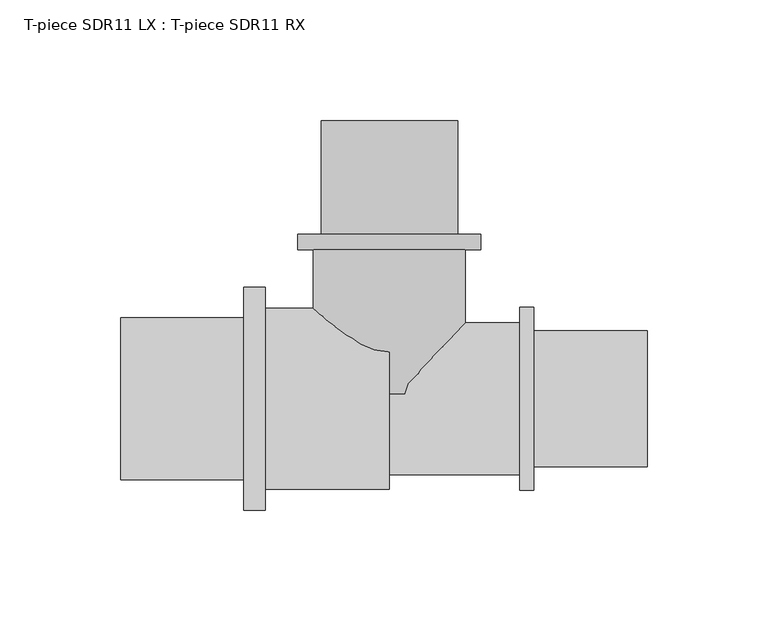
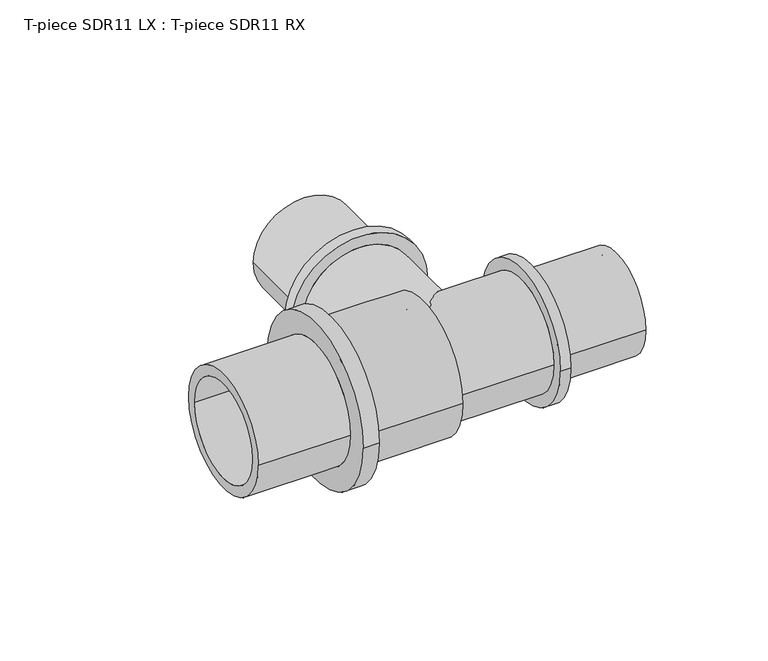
"""IFC4 building model written with IfcOpenShell, lengths in millimetres: pipe fitting geometry, T-piece SDR11 LX : T-piece SDR11 RX."""

from ifc_helpers import new_model, si_unit, point, frame, origin, place, context, project, spatial, polyline, circle_curve, ellipse_curve, trimmed, source, transform, mapped, element, save
from ifc_brep_helpers import plane_surface, cylinder_surface, revolved_surface, advanced_brep


def t_piece_sdr11_lx_t_piece_sdr11_rx_e4a54ba6(model_context):
    return source(origin(), model_context, "Body", "AdvancedBrep", [
        advanced_brep(
        [(31.5, 2.0801053, 0.0), (-31.5, 2.0801053, 0.0), (-31.5, 61.9, 0.0), (31.5, 61.9, 0.0), (23.1, 115.4, 0.0), (-23.1, 115.4, 0.0), (-23.1, 0.0, 0.0), (23.1, 0.0, 0.0), (28.3, 68.2, 0.0), (-28.3, 68.2, 0.0), (-28.3, 115.4, 0.0), (28.3, 115.4, 0.0), (38.0, 61.9, 0.0), (-38.0, 61.9, 0.0), (-38.0, 68.2, 0.0), (38.0, 68.2, 0.0)],
        [
            (0, 1, circle_curve(frame((0.0, 2.0801053, 0.0), z_axis=(0.0, 1.0, 0.0), x_axis=(-1.0, 0.0, 0.0)), 31.5)),
            (1, 2),
            (2, 3, circle_curve(frame((0.0, 61.9, 0.0), z_axis=(0.0, -1.0, 0.0), x_axis=(-1.0, 0.0, 0.0)), 31.5)),
            (3, 0),
            (4, 5, circle_curve(frame((0.0, 115.4, 0.0), z_axis=(0.0, 1.0, 0.0), x_axis=(-1.0, 0.0, 0.0)), 23.1)),
            (5, 6),
            (6, 7, circle_curve(frame((0.0, 0.0, 0.0), z_axis=(0.0, -1.0, 0.0), x_axis=(-1.0, 0.0, 0.0)), 23.1)),
            (7, 4),
            (8, 9, circle_curve(frame((0.0, 68.2, 0.0), z_axis=(0.0, 1.0, 0.0), x_axis=(-1.0, 0.0, 0.0)), 28.3)),
            (9, 10),
            (10, 11, circle_curve(frame((0.0, 115.4, 0.0), z_axis=(0.0, -1.0, 0.0), x_axis=(-1.0, 0.0, 0.0)), 28.3)),
            (11, 8),
            (12, 13, circle_curve(frame((0.0, 61.9, 0.0), z_axis=(0.0, 1.0, 0.0), x_axis=(-1.0, 0.0, 0.0)), 38.0)),
            (13, 14),
            (14, 15, circle_curve(frame((0.0, 68.2, 0.0), z_axis=(0.0, -1.0, 0.0), x_axis=(-1.0, 0.0, 0.0)), 38.0)),
            (15, 12),
            (12, 13, circle_curve(frame((0.0, 61.9, 0.0), z_axis=(0.0, -1.0, 0.0), x_axis=(1.0, 0.0, 0.0)), 38.0)),
            (2, 3, circle_curve(frame((0.0, 61.9, 0.0), z_axis=(0.0, 1.0, 0.0), x_axis=(1.0, 0.0, 0.0)), 31.5)),
            (1, 0, circle_curve(frame((0.0, 2.0801053, 0.0), z_axis=(0.0, 1.0, 0.0), x_axis=(1.0, 0.0, 0.0)), 31.5)),
            (5, 4, circle_curve(frame((0.0, 115.4, 0.0), z_axis=(0.0, 1.0, 0.0), x_axis=(1.0, 0.0, 0.0)), 23.1)),
            (7, 6, circle_curve(frame((0.0, 0.0, 0.0), z_axis=(0.0, -1.0, 0.0), x_axis=(1.0, 0.0, 0.0)), 23.1)),
            (10, 11, circle_curve(frame((0.0, 115.4, 0.0), z_axis=(0.0, 1.0, 0.0), x_axis=(1.0, 0.0, 0.0)), 28.3)),
            (9, 8, circle_curve(frame((0.0, 68.2, 0.0), z_axis=(0.0, 1.0, 0.0), x_axis=(1.0, 0.0, 0.0)), 28.3)),
            (14, 15, circle_curve(frame((0.0, 68.2, 0.0), z_axis=(0.0, 1.0, 0.0), x_axis=(1.0, 0.0, 0.0)), 38.0)),
            (6, 1, circle_curve(frame((-18.3462802, 37.197475, 0.0), z_axis=(0.0, 0.0, -1.0), x_axis=(0.0, -1.0, 0.0)), 37.5)),
            (0, 7, circle_curve(frame((18.3462802, 37.197475, 0.0), z_axis=(0.0, 0.0, -1.0), x_axis=(0.0, -1.0, 0.0)), 37.5)),
        ],
        [
            cylinder_surface(frame((0.0, 0.0, 0.0), z_axis=(0.0, -1.0, 0.0), x_axis=(-1.0, 0.0, 0.0)), 31.5),
            revolved_surface(polyline([(-23.1, 0.0, 0.0), (-23.1, 115.4, 0.0)]), (0.0, 0.0, 0.0), (0.0, -1.0, 0.0)),
            cylinder_surface(frame((0.0, 0.0, 0.0), z_axis=(0.0, -1.0, 0.0), x_axis=(-1.0, 0.0, 0.0)), 28.3),
            cylinder_surface(frame((0.0, 0.0, 0.0), z_axis=(0.0, -1.0, 0.0), x_axis=(-1.0, 0.0, 0.0)), 38.0),
            plane_surface(frame((0.0, 61.9, 0.0), z_axis=(0.0, -1.0, 0.0), x_axis=(1.0, 0.0, 0.0))),
            cylinder_surface(frame((0.0, 0.0, 0.0), z_axis=(0.0, -1.0, 0.0), x_axis=(1.0, 0.0, 0.0)), 31.5),
            revolved_surface(polyline([(23.1, 0.0, 0.0), (23.1, 115.4, 0.0)]), (0.0, 0.0, 0.0), (0.0, -1.0, 0.0)),
            plane_surface(frame((0.0, 115.4, 0.0), z_axis=(0.0, 1.0, 0.0), x_axis=(1.0, 0.0, 0.0))),
            cylinder_surface(frame((0.0, 0.0, 0.0), z_axis=(0.0, -1.0, 0.0), x_axis=(1.0, 0.0, 0.0)), 28.3),
            plane_surface(frame((0.0, 68.2, 0.0), z_axis=(0.0, 1.0, 0.0), x_axis=(1.0, 0.0, 0.0))),
            cylinder_surface(frame((0.0, 0.0, 0.0), z_axis=(0.0, -1.0, 0.0), x_axis=(1.0, 0.0, 0.0)), 38.0),
            revolved_surface(trimmed(ellipse_curve(frame((-18.3462802, 37.197475, 0.0), z_axis=(0.0, 0.0, 1.0), x_axis=(0.0, -1.0, 0.0)), 37.5, 37.5), [point((-31.5, 2.0801053, 0.0))], [point((-23.1, 0.0, 0.0))], True, "CARTESIAN"), (0.0, 0.0, 0.0), (0.0, -1.0, 0.0)),
            revolved_surface(trimmed(ellipse_curve(frame((18.3462802, 37.197475, 0.0), z_axis=(0.0, 0.0, -1.0), x_axis=(0.0, -1.0, 0.0)), 37.5, 37.5), [point((31.5, 2.0801053, 0.0))], [point((23.1, 0.0, 0.0))], True, "CARTESIAN"), (0.0, 0.0, 0.0), (0.0, -1.0, 0.0)),
        ],
        [
            (0, [[1, 2, 3, 4]]),
            (1, [[5, 6, 7, 8]]),
            (2, [[9, 10, 11, 12]]),
            (3, [[13, 14, 15, 16]]),
            (4, [[17, -13], [18, -3]]),
            (5, [[19, -4, -18, -2]]),
            (6, [[20, -8, 21, -6]]),
            (7, [[22, -11], [-20, -5]]),
            (8, [[23, -12, -22, -10]]),
            (9, [[24, -15], [-23, -9]]),
            (10, [[-17, -16, -24, -14]]),
            (11, [[-7, 25, -1, 26]]),
            (12, [[-21, -26, -19, -25]]),
        ],
    ),
        advanced_brep(
        [(54.1, 31.5, 0.0), (54.1, -31.5, 0.0), (0.0, -31.5, 0.0), (0.0, 31.5, 0.0), (0.0, 23.1, 0.0), (0.0, -23.1, 0.0), (107.1, -23.1, 0.0), (107.1, 23.1, 0.0), (107.1, 28.3, 0.0), (107.1, -28.3, 0.0), (59.9, -28.3, 0.0), (59.9, 28.3, 0.0), (59.9, 38.0, 0.0), (59.9, -38.0, 0.0), (54.1, -38.0, 0.0), (54.1, 38.0, 0.0)],
        [
            (0, 1, circle_curve(frame((54.1, 0.0, 0.0), z_axis=(-1.0, 0.0, 0.0), x_axis=(0.0, -1.0, 0.0)), 31.5)),
            (1, 2),
            (2, 3, circle_curve(frame((0.0, 0.0, 0.0), z_axis=(1.0, 0.0, 0.0), x_axis=(0.0, -1.0, 0.0)), 31.5)),
            (3, 0),
            (4, 5, circle_curve(frame((0.0, 0.0, 0.0), z_axis=(-1.0, 0.0, 0.0), x_axis=(0.0, -1.0, 0.0)), 23.1)),
            (5, 6),
            (6, 7, circle_curve(frame((107.1, 0.0, 0.0), z_axis=(1.0, 0.0, 0.0), x_axis=(0.0, -1.0, 0.0)), 23.1)),
            (7, 4),
            (8, 9, circle_curve(frame((107.1, 0.0, 0.0), z_axis=(-1.0, 0.0, 0.0), x_axis=(0.0, -1.0, 0.0)), 28.3)),
            (9, 10),
            (10, 11, circle_curve(frame((59.9, 0.0, 0.0), z_axis=(1.0, 0.0, 0.0), x_axis=(0.0, -1.0, 0.0)), 28.3)),
            (11, 8),
            (12, 13, circle_curve(frame((59.9, 0.0, 0.0), z_axis=(-1.0, 0.0, 0.0), x_axis=(0.0, -1.0, 0.0)), 38.0)),
            (13, 14),
            (14, 15, circle_curve(frame((54.1, 0.0, 0.0), z_axis=(1.0, 0.0, 0.0), x_axis=(0.0, -1.0, 0.0)), 38.0)),
            (15, 12),
            (14, 15, circle_curve(frame((54.1, 0.0, 0.0), z_axis=(-1.0, 0.0, 0.0), x_axis=(0.0, 1.0, 0.0)), 38.0)),
            (0, 1, circle_curve(frame((54.1, 0.0, 0.0), z_axis=(1.0, 0.0, 0.0), x_axis=(0.0, 1.0, 0.0)), 31.5)),
            (3, 2, circle_curve(frame((0.0, 0.0, 0.0), z_axis=(1.0, 0.0, 0.0), x_axis=(0.0, 1.0, 0.0)), 31.5)),
            (4, 5, circle_curve(frame((0.0, 0.0, 0.0), z_axis=(1.0, 0.0, 0.0), x_axis=(0.0, 1.0, 0.0)), 23.1)),
            (7, 6, circle_curve(frame((107.1, 0.0, 0.0), z_axis=(1.0, 0.0, 0.0), x_axis=(0.0, 1.0, 0.0)), 23.1)),
            (8, 9, circle_curve(frame((107.1, 0.0, 0.0), z_axis=(1.0, 0.0, 0.0), x_axis=(0.0, 1.0, 0.0)), 28.3)),
            (11, 10, circle_curve(frame((59.9, 0.0, 0.0), z_axis=(1.0, 0.0, 0.0), x_axis=(0.0, 1.0, 0.0)), 28.3)),
            (12, 13, circle_curve(frame((59.9, 0.0, 0.0), z_axis=(1.0, 0.0, 0.0), x_axis=(0.0, 1.0, 0.0)), 38.0)),
        ],
        [
            cylinder_surface(frame((0.0, 0.0, 0.0), z_axis=(1.0, 0.0, 0.0), x_axis=(0.0, -1.0, 0.0)), 31.5),
            revolved_surface(polyline([(107.1, -23.1, 0.0), (0.0, -23.1, 0.0)]), (0.0, 0.0, 0.0), (1.0, 0.0, 0.0)),
            cylinder_surface(frame((0.0, 0.0, 0.0), z_axis=(1.0, 0.0, 0.0), x_axis=(0.0, -1.0, 0.0)), 28.3),
            cylinder_surface(frame((0.0, 0.0, 0.0), z_axis=(1.0, 0.0, 0.0), x_axis=(0.0, -1.0, 0.0)), 38.0),
            plane_surface(frame((54.1, 0.0, 0.0), z_axis=(-1.0, 0.0, 0.0), x_axis=(0.0, 1.0, 0.0))),
            cylinder_surface(frame((0.0, 0.0, 0.0), z_axis=(1.0, 0.0, 0.0), x_axis=(0.0, 1.0, 0.0)), 31.5),
            plane_surface(frame((0.0, 0.0, 0.0), z_axis=(-1.0, 0.0, 0.0), x_axis=(0.0, 1.0, 0.0))),
            revolved_surface(polyline([(107.1, 23.1, 0.0), (0.0, 23.1, 0.0)]), (0.0, 0.0, 0.0), (1.0, 0.0, 0.0)),
            plane_surface(frame((107.1, 0.0, 0.0), z_axis=(1.0, 0.0, 0.0), x_axis=(0.0, 1.0, 0.0))),
            cylinder_surface(frame((0.0, 0.0, 0.0), z_axis=(1.0, 0.0, 0.0), x_axis=(0.0, 1.0, 0.0)), 28.3),
            plane_surface(frame((59.9, 0.0, 0.0), z_axis=(1.0, 0.0, 0.0), x_axis=(0.0, 1.0, 0.0))),
            cylinder_surface(frame((0.0, 0.0, 0.0), z_axis=(1.0, 0.0, 0.0), x_axis=(0.0, 1.0, 0.0)), 38.0),
        ],
        [
            (0, [[1, 2, 3, 4]]),
            (1, [[5, 6, 7, 8]]),
            (2, [[9, 10, 11, 12]]),
            (3, [[13, 14, 15, 16]]),
            (4, [[17, -15], [18, -1]]),
            (5, [[-18, -4, 19, -2]]),
            (6, [[-19, -3], [20, -5]]),
            (7, [[-20, -8, 21, -6]]),
            (8, [[22, -9], [-21, -7]]),
            (9, [[-22, -12, 23, -10]]),
            (10, [[24, -13], [-23, -11]]),
            (11, [[-24, -16, -17, -14]]),
        ],
    ),
        advanced_brep(
        [(0.0, 37.5, 0.0), (0.0, -37.5, 0.0), (-51.4, -37.5, 0.0), (-51.4, 37.5, 0.0), (-111.5, 27.75, 0.0), (-111.5, -27.75, 0.0), (0.0, -27.75, 0.0), (0.0, 27.75, 0.0), (-60.4, 33.6, 0.0), (-60.4, -33.6, 0.0), (-111.5, -33.6, 0.0), (-111.5, 33.6, 0.0), (-51.4, 46.2, 0.0), (-51.4, -46.2, 0.0), (-60.4, -46.2, 0.0), (-60.4, 46.2, 0.0)],
        [
            (0, 1, circle_curve(frame((0.0, 0.0, 0.0), z_axis=(-1.0, 0.0, 0.0), x_axis=(0.0, -1.0, 0.0)), 37.5)),
            (1, 2),
            (2, 3, circle_curve(frame((-51.4, 0.0, 0.0), z_axis=(1.0, 0.0, 0.0), x_axis=(0.0, -1.0, 0.0)), 37.5)),
            (3, 0),
            (4, 5, circle_curve(frame((-111.5, 0.0, 0.0), z_axis=(-1.0, 0.0, 0.0), x_axis=(0.0, -1.0, 0.0)), 27.75)),
            (5, 6),
            (6, 7, circle_curve(frame((0.0, 0.0, 0.0), z_axis=(1.0, 0.0, 0.0), x_axis=(0.0, -1.0, 0.0)), 27.75)),
            (7, 4),
            (8, 9, circle_curve(frame((-60.4, 0.0, 0.0), z_axis=(-1.0, 0.0, 0.0), x_axis=(0.0, -1.0, 0.0)), 33.6)),
            (9, 10),
            (10, 11, circle_curve(frame((-111.5, 0.0, 0.0), z_axis=(1.0, 0.0, 0.0), x_axis=(0.0, -1.0, 0.0)), 33.6)),
            (11, 8),
            (12, 13, circle_curve(frame((-51.4, 0.0, 0.0), z_axis=(-1.0, 0.0, 0.0), x_axis=(0.0, -1.0, 0.0)), 46.2)),
            (13, 14),
            (14, 15, circle_curve(frame((-60.4, 0.0, 0.0), z_axis=(1.0, 0.0, 0.0), x_axis=(0.0, -1.0, 0.0)), 46.2)),
            (15, 12),
            (12, 13, circle_curve(frame((-51.4, 0.0, 0.0), z_axis=(1.0, 0.0, 0.0), x_axis=(0.0, 1.0, 0.0)), 46.2)),
            (2, 3, circle_curve(frame((-51.4, 0.0, 0.0), z_axis=(-1.0, 0.0, 0.0), x_axis=(0.0, 1.0, 0.0)), 37.5)),
            (1, 0, circle_curve(frame((0.0, 0.0, 0.0), z_axis=(-1.0, 0.0, 0.0), x_axis=(0.0, 1.0, 0.0)), 37.5)),
            (6, 7, circle_curve(frame((0.0, 0.0, 0.0), z_axis=(-1.0, 0.0, 0.0), x_axis=(0.0, 1.0, 0.0)), 27.75)),
            (5, 4, circle_curve(frame((-111.5, 0.0, 0.0), z_axis=(-1.0, 0.0, 0.0), x_axis=(0.0, 1.0, 0.0)), 27.75)),
            (10, 11, circle_curve(frame((-111.5, 0.0, 0.0), z_axis=(-1.0, 0.0, 0.0), x_axis=(0.0, 1.0, 0.0)), 33.6)),
            (9, 8, circle_curve(frame((-60.4, 0.0, 0.0), z_axis=(-1.0, 0.0, 0.0), x_axis=(0.0, 1.0, 0.0)), 33.6)),
            (14, 15, circle_curve(frame((-60.4, 0.0, 0.0), z_axis=(-1.0, 0.0, 0.0), x_axis=(0.0, 1.0, 0.0)), 46.2)),
        ],
        [
            cylinder_surface(frame((0.0, 0.0, 0.0), z_axis=(1.0, 0.0, 0.0), x_axis=(0.0, -1.0, 0.0)), 37.5),
            revolved_surface(polyline([(0.0, -27.75, 0.0), (-111.5, -27.75, 0.0)]), (0.0, 0.0, 0.0), (1.0, 0.0, 0.0)),
            cylinder_surface(frame((0.0, 0.0, 0.0), z_axis=(1.0, 0.0, 0.0), x_axis=(0.0, -1.0, 0.0)), 33.6),
            cylinder_surface(frame((0.0, 0.0, 0.0), z_axis=(1.0, 0.0, 0.0), x_axis=(0.0, -1.0, 0.0)), 46.2),
            plane_surface(frame((-51.4, 0.0, 0.0), z_axis=(1.0, 0.0, 0.0), x_axis=(0.0, 1.0, 0.0))),
            cylinder_surface(frame((0.0, 0.0, 0.0), z_axis=(1.0, 0.0, 0.0), x_axis=(0.0, 1.0, 0.0)), 37.5),
            plane_surface(frame((0.0, 0.0, 0.0), z_axis=(1.0, 0.0, 0.0), x_axis=(0.0, 1.0, 0.0))),
            revolved_surface(polyline([(0.0, 27.75, 0.0), (-111.5, 27.75, 0.0)]), (0.0, 0.0, 0.0), (1.0, 0.0, 0.0)),
            plane_surface(frame((-111.5, 0.0, 0.0), z_axis=(-1.0, 0.0, 0.0), x_axis=(0.0, 1.0, 0.0))),
            cylinder_surface(frame((0.0, 0.0, 0.0), z_axis=(1.0, 0.0, 0.0), x_axis=(0.0, 1.0, 0.0)), 33.6),
            plane_surface(frame((-60.4, 0.0, 0.0), z_axis=(-1.0, 0.0, 0.0), x_axis=(0.0, 1.0, 0.0))),
            cylinder_surface(frame((0.0, 0.0, 0.0), z_axis=(1.0, 0.0, 0.0), x_axis=(0.0, 1.0, 0.0)), 46.2),
        ],
        [
            (0, [[1, 2, 3, 4]]),
            (1, [[5, 6, 7, 8]]),
            (2, [[9, 10, 11, 12]]),
            (3, [[13, 14, 15, 16]]),
            (4, [[17, -13], [18, -3]]),
            (5, [[19, -4, -18, -2]]),
            (6, [[-19, -1], [20, -7]]),
            (7, [[21, -8, -20, -6]]),
            (8, [[22, -11], [-21, -5]]),
            (9, [[23, -12, -22, -10]]),
            (10, [[24, -15], [-23, -9]]),
            (11, [[-17, -16, -24, -14]]),
        ],
    ),
    ])


if __name__ == "__main__":
    model = new_model("IFC4")
    model_context = context("Model", 3, world=origin())
    ifc_project = project(units=[si_unit("LENGTHUNIT", "METRE", prefix="MILLI")], contexts=[model_context])
    site = spatial("IfcSite", under=ifc_project)
    building = spatial("IfcBuilding", under=site)
    placement = place(None, origin())
    t_piece_sdr11_lx_t_piece_sdr11_rx_shape = t_piece_sdr11_lx_t_piece_sdr11_rx_e4a54ba6(model_context)
    element("IfcPipeFitting", 1, ObjectType="T-piece SDR11 LX : T-piece SDR11 RX", at=placement, inside=building, context=model_context, shape_type="MappedRepresentation", body=[
        mapped(t_piece_sdr11_lx_t_piece_sdr11_rx_shape, transform((0.0, 0.0, 0.0), x_axis=(1.0, 0.0, 0.0), y_axis=(0.0, 1.0, 0.0), z_axis=(0.0, 0.0, 1.0))),
    ])
    save(model, "model.ifc")
